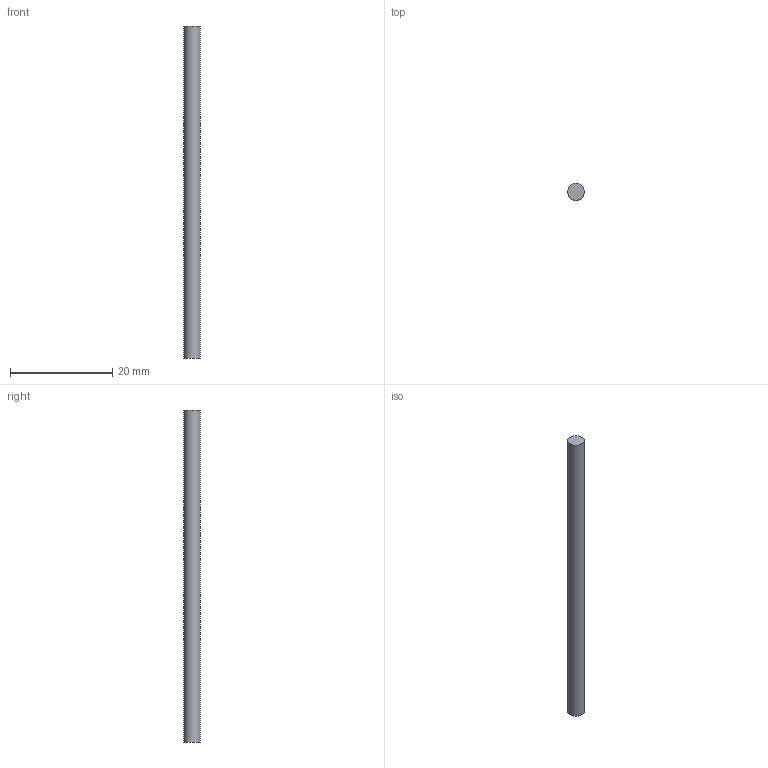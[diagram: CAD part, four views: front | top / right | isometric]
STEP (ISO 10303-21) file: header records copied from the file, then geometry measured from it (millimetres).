
FILE_DESCRIPTION(/* description */ ('STEP AP242 Edition 2','CAx-IF Rec.Pracs.---Representation and Presentation of Product Manufacturing Information (PMI)---4.0---2014-10-13','CAx-IF Rec.Pracs.---3D Tessellated Geometry---0.4---2014-09-14','2;1','CAx-IF Rec.Pracs.---User Defined Attributes---1.5---2016-08-15'),/* implementation_level */ '2;1');
FILE_NAME(/* name */ 'Arm Parts - LaserBarrier',/* time_stamp */ '2026-04-22T00:04:14Z',/* author */ (''),/* organization */ (''),/* preprocessor_version */ 'ST-DEVELOPER v20',/* originating_system */ 'ONSHAPE BY PTC INC, 1.213',/* authorisation */ ' ');
FILE_SCHEMA (('AP242_MANAGED_MODEL_BASED_3D_ENGINEERING_MIM_LF { 1 0 10303 442 3 1 4 }'));
Length unit declared in the file: metre
Products named in the file (1): LaserBarrier
Bounding box: 3.3 x 3.3 x 65 mm (x, y, z)
Volume: 555.9 mm3; surface area: 691 mm2
Topology: 1 solids, 1 shells, 3 faces, 3 edges, 2 vertices
Faces by surface type: plane 2, cylinder 1
Full cylindrical faces by diameter (mm): 3.3 x1
Entity records: 76 total; most frequent: DIRECTION 12, CARTESIAN_POINT 8, AXIS2_PLACEMENT_3D 6, ORIENTED_EDGE 4, EDGE_LOOP 4, FACE_BOUND 4, ADVANCED_FACE 3, PLANE 2
